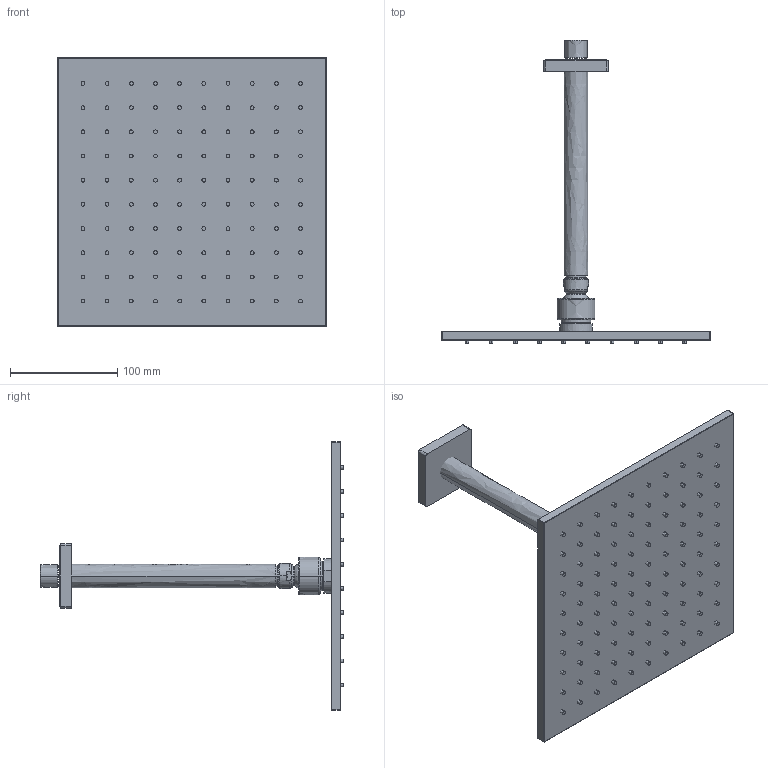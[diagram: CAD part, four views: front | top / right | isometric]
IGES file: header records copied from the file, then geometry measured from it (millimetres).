
Start section:  PTC IGES file: GPF4375500000A002_1.igs
Global section: file name: GPF4375500000A002_1.igs; native system: Creo Parametric by PTC Inc.; preprocessor: 2020281; author: PLMexport; organization: Unknown; date: 20211222.194516; units: millimetre
Bounding box: 250 x 282.5 x 250 mm (x, y, z)
Surface area: 241776.2 mm2 (no closed solid volume)
Topology: 0 solids, 0 shells, 392 faces, 1382 edges, 1382 vertices
Faces by surface type: bspline 392
